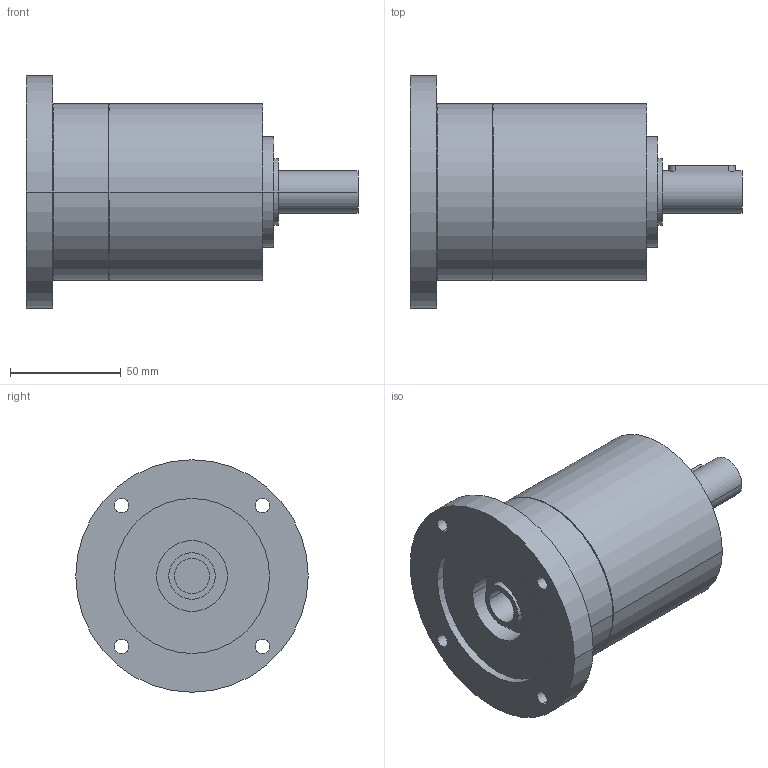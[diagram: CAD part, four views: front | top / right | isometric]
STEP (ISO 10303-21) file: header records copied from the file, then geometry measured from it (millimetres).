
FILE_DESCRIPTION(('CoCreate Modeling STEP Export'),'2;1');
FILE_NAME('GPR100_ig-3-4-5-6_19_B14_15.87_P12.stp','2014-08-26T10:07:40',(''),(''),'CoCreate Modeling STEP processor for AP214 (Solid Model)','CoCreate Modeling 16.00C 25-Feb-2009 (C) Parametric Technology GmbH','');
FILE_SCHEMA(('AUTOMOTIVE_DESIGN { 1 0 10303 214 1 1 1 1 }'));
Length unit declared in the file: millimetre
Products named in the file (2): GPR100_ig-3-4-5-6_19_B14_15.87_P12
Assembly tree (1 placements, depth 2):
  GPR100_ig-3-4-5-6_19_B14_15.87_P12
    GPR100_ig-3-4-5-6_19_B14_15.87_P12
Bounding box: 150 x 105 x 105 mm (x, y, z)
Volume: 572811.1 mm3; surface area: 55097.6 mm2
Topology: 1 solids, 1 shells, 76 faces, 202 edges, 144 vertices
Faces by surface type: cylinder 48, plane 22, cone 6
Entity records: 2022 total; most frequent: ORIENTED_EDGE 400, CARTESIAN_POINT 369, DIRECTION 262, EDGE_CURVE 200, VERTEX_POINT 144, EDGE_LOOP 102, AXIS2_PLACEMENT_3D 101, FACE_OUTER_BOUND 76
